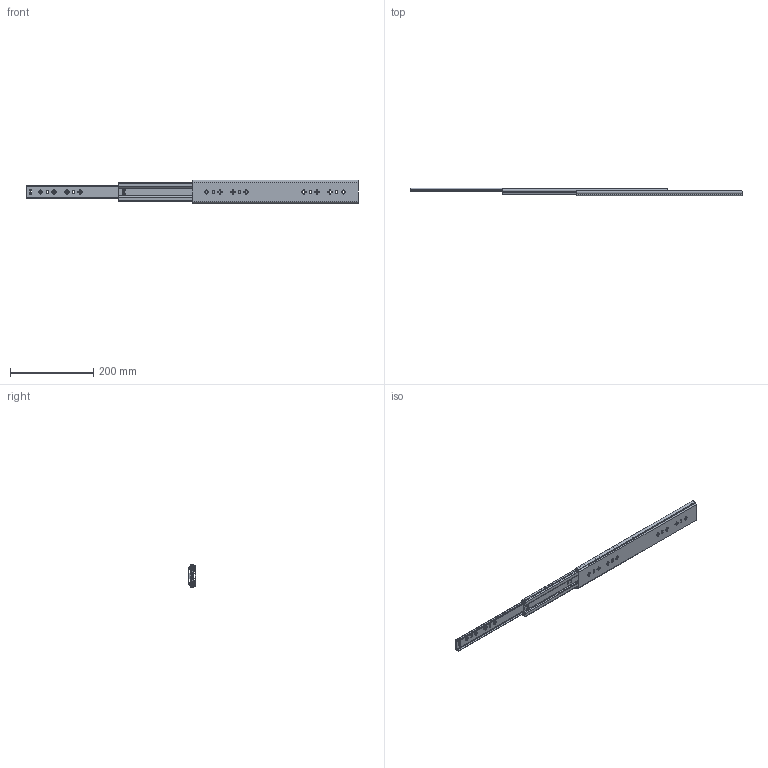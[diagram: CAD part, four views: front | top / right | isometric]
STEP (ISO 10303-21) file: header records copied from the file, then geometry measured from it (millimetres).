
FILE_DESCRIPTION((''),'2;1');
FILE_NAME('KP-57-C-16_ASM','2019-04-24T',('jishu015'),(''),'PRO/ENGINEER BY PARAMETRIC TECHNOLOGY CORPORATION, 2010280','PRO/ENGINEER BY PARAMETRIC TECHNOLOGY CORPORATION, 2010280','');
FILE_SCHEMA(('CONFIG_CONTROL_DESIGN'));
Length unit declared in the file: millimetre
Products named in the file (15): KP-57-01WEIKE-361__; WAIKE1______ASM; KP-57-01ZHONGGUI-400________; KP-57-01ZHONGGUI-400_________ASM; 1057XIAOZHUJIA1________________; 1057-5-6GANZHU1________________; 1057ZHUJIADANWEIJIAO2_____; 1057XIAOZHUJIA-28GE1_________ASM; KP-57-01NEIGUI-401____; KP-57-01NEIGUI-401_____ASM; 1057DAZHUJIA-14GE1____; 1057ZHUJIADANWEIJIAO1_______; 1057-5-6GANZH1_; 1057DAZHUJIA-14GE112____ASM; KP-57-C-16_ASM
Assembly tree (70 placements, depth 3):
  KP-57-C-16_ASM
    WAIKE1______ASM
      KP-57-01WEIKE-361__
    KP-57-01ZHONGGUI-400_________ASM
      KP-57-01ZHONGGUI-400________
    1057XIAOZHUJIA-28GE1_________ASM
      1057XIAOZHUJIA1________________
      1057-5-6GANZHU1________________  x24
      1057ZHUJIADANWEIJIAO2_____  x2
    KP-57-01NEIGUI-401_____ASM
      KP-57-01NEIGUI-401____
    1057DAZHUJIA-14GE112____ASM
      1057DAZHUJIA-14GE1____
      1057ZHUJIADANWEIJIAO1_______  x2
      1057-5-6GANZH1_  x32
Bounding box: 800 x 19 x 57.67 mm (x, y, z)
Volume: 175794 mm3; surface area: 208474.6 mm2
Topology: 65 solids, 65 shells, 1816 faces, 5134 edges, 3220 vertices
Faces by surface type: plane 910, cylinder 710, sphere 112, cone 64, bspline 20
Entity records: 55577 total; most frequent: CARTESIAN_POINT 10954, DIRECTION 9436, ORIENTED_EDGE 9268, EDGE_CURVE 4634, AXIS2_PLACEMENT_3D 3229, VERTEX_POINT 3000, VECTOR 2978, LINE 2978
